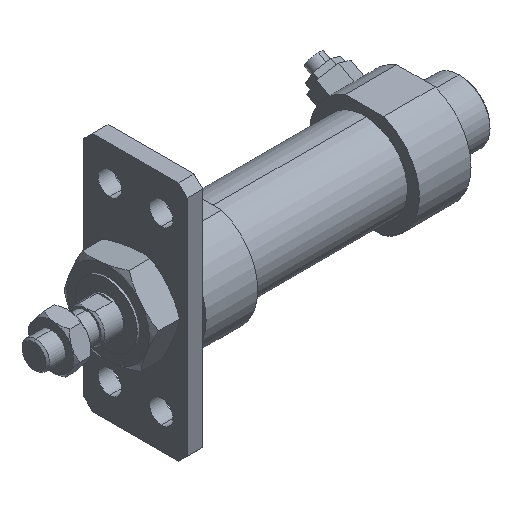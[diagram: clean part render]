
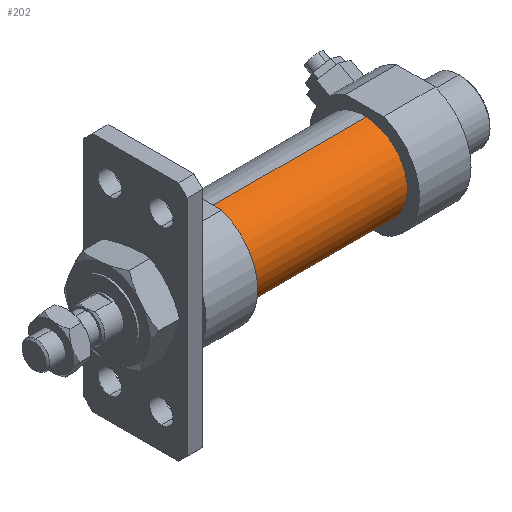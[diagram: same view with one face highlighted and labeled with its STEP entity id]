
A CAD part, isometric view. The second image highlights one B-rep face of the part: STEP entity #202.
In plain terms, the highlighted cylindrical face has radius 12.5 mm (diameter 25 mm), a partial arc.
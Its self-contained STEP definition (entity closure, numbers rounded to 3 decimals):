
#11 = VERTEX_POINT ( 'NONE', #1275 ) ;
#120 = CARTESIAN_POINT ( 'NONE',  ( 23.5, 0., 0. ) ) ;
#180 = CARTESIAN_POINT ( 'NONE',  ( 23.5, 0., -12.5 ) ) ;
#202 = ADVANCED_FACE ( 'NONE', ( #4034 ), #1643, .T. ) ;
#276 = VECTOR ( 'NONE', #3025, 1000. ) ;
#655 = ORIENTED_EDGE ( 'NONE', *, *, #1553, .F. ) ;
#690 = CIRCLE ( 'NONE', #2104, 12.5 ) ;
#715 = DIRECTION ( 'NONE',  ( 1., 0., 0. ) ) ;
#827 = DIRECTION ( 'NONE',  ( 1., 0., 0. ) ) ;
#885 = CARTESIAN_POINT ( 'NONE',  ( -23.5, 0., 0. ) ) ;
#1275 = CARTESIAN_POINT ( 'NONE',  ( -23.5, 0., -12.5 ) ) ;
#1528 = VERTEX_POINT ( 'NONE', #2171 ) ;
#1535 = VERTEX_POINT ( 'NONE', #5495 ) ;
#1553 = EDGE_CURVE ( 'NONE', #1535, #2595, #4043, .T. ) ;
#1643 = CYLINDRICAL_SURFACE ( 'NONE', #2704, 12.5 ) ;
#1789 = ORIENTED_EDGE ( 'NONE', *, *, #3482, .T. ) ;
#2104 = AXIS2_PLACEMENT_3D ( 'NONE', #885, #715, #4757 ) ;
#2171 = CARTESIAN_POINT ( 'NONE',  ( -23.5, 0., 12.5 ) ) ;
#2429 = DIRECTION ( 'NONE',  ( -1., 0., 0. ) ) ;
#2595 = VERTEX_POINT ( 'NONE', #2857 ) ;
#2704 = AXIS2_PLACEMENT_3D ( 'NONE', #120, #3313, #5074 ) ;
#2856 = VECTOR ( 'NONE', #2429, 1000. ) ;
#2857 = CARTESIAN_POINT ( 'NONE',  ( 23.5, 0., -12.5 ) ) ;
#3025 = DIRECTION ( 'NONE',  ( -1., 0., 0. ) ) ;
#3036 = AXIS2_PLACEMENT_3D ( 'NONE', #3394, #827, #3476 ) ;
#3270 = EDGE_CURVE ( 'NONE', #2595, #11, #3892, .T. ) ;
#3313 = DIRECTION ( 'NONE',  ( -1., 0., 0. ) ) ;
#3394 = CARTESIAN_POINT ( 'NONE',  ( 23.5, 0., 0. ) ) ;
#3476 = DIRECTION ( 'NONE',  ( 0., 0., -1. ) ) ;
#3482 = EDGE_CURVE ( 'NONE', #1528, #11, #690, .T. ) ;
#3487 = LINE ( 'NONE', #4531, #276 ) ;
#3657 = EDGE_LOOP ( 'NONE', ( #3750, #655, #5240, #1789 ) ) ;
#3750 = ORIENTED_EDGE ( 'NONE', *, *, #3270, .F. ) ;
#3892 = LINE ( 'NONE', #180, #2856 ) ;
#4034 = FACE_OUTER_BOUND ( 'NONE', #3657, .T. ) ;
#4043 = CIRCLE ( 'NONE', #3036, 12.5 ) ;
#4531 = CARTESIAN_POINT ( 'NONE',  ( 23.5, 0., 12.5 ) ) ;
#4757 = DIRECTION ( 'NONE',  ( 0., 0., -1. ) ) ;
#5074 = DIRECTION ( 'NONE',  ( 0., 0., 1. ) ) ;
#5240 = ORIENTED_EDGE ( 'NONE', *, *, #5291, .T. ) ;
#5291 = EDGE_CURVE ( 'NONE', #1535, #1528, #3487, .T. ) ;
#5495 = CARTESIAN_POINT ( 'NONE',  ( 23.5, 0., 12.5 ) ) ;
